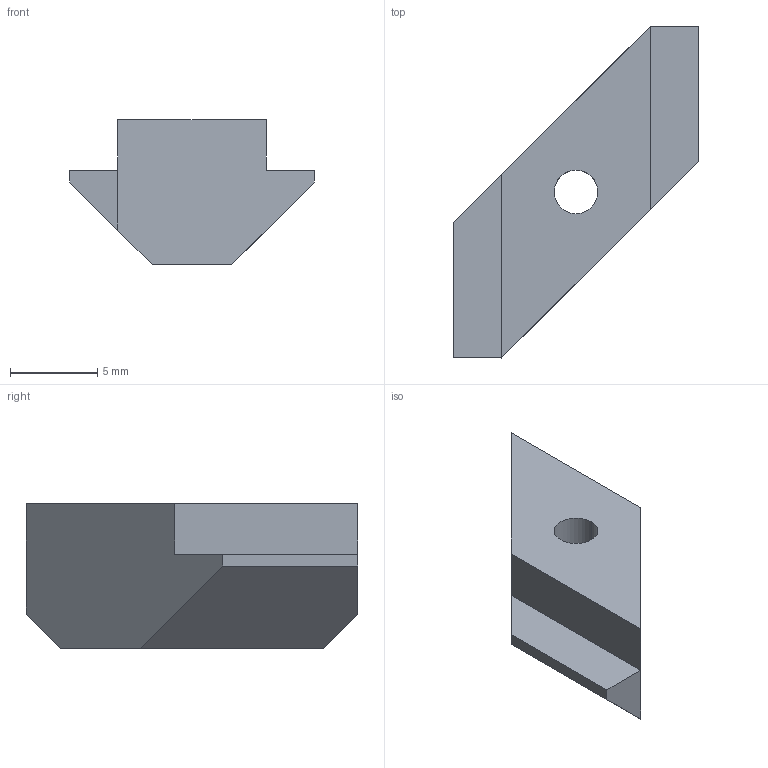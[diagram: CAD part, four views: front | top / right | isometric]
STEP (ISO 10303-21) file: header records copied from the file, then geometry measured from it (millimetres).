
FILE_DESCRIPTION (( 'STEP AP203' ), '1' );
FILE_NAME ('0108NSZNM3.STEP', '2024-03-05T13:32:21', ( 'Windows-Benutzer' ), ( '' ), 'SwSTEP 2.0', 'SolidWorks 2023', '' );
FILE_SCHEMA (( 'CONFIG_CONTROL_DESIGN' ));
Length unit declared in the file: millimetre
Products named in the file (1): 0108NSZNM3
Bounding box: 14 x 19 x 8.3 mm (x, y, z)
Volume: 766.1 mm3; surface area: 659.5 mm2
Topology: 1 solids, 1 shells, 16 faces, 40 edges, 26 vertices
Faces by surface type: plane 14, cylinder 2
Entity records: 553 total; most frequent: CARTESIAN_POINT 83, ORIENTED_EDGE 80, DIRECTION 78, EDGE_CURVE 40, VECTOR 36, LINE 36, VERTEX_POINT 26, AXIS2_PLACEMENT_3D 21
